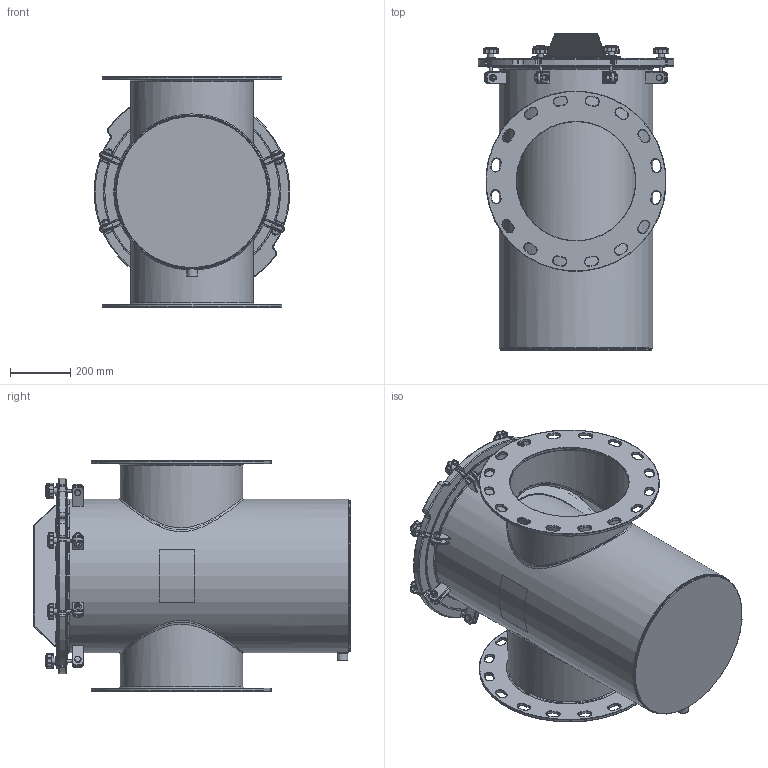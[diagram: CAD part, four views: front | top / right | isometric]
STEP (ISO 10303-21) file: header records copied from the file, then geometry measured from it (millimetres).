
FILE_DESCRIPTION(/* description */ ('20" STRAINER BODY'),/* implementation_level */ '2;1');
FILE_NAME(/* name */ 'X:\WIP\Ready for delivery - Do not Disturb -Updated with metric Flange\Workspace\SS Straight\150NBSTL16-M.stp',/* time_stamp */ '2016-09-29T20:02:48+06:00',/* author */ ('20093558'),/* organization */ (''),/* preprocessor_version */ 'ST-DEVELOPER v16.1',/* originating_system */ 'Autodesk Inventor 2016',/* authorisation */ '');
FILE_SCHEMA (('AUTOMOTIVE_DESIGN { 1 0 10303 214 3 1 1 }'));
Length unit declared in the file: inch
Products named in the file (34): NBSSBODY16_Welds; FOR NBSSBODY16; FOR 20 DIA STRAINER BODY; FOR 20 DIA STRAINER BODY_1; 20 Body; ConcentricPipe-16(_DQ) - M; 16(_DQ); For 20 Body; ASME B16.11 Half Coupling Threaded - Class 3000 3_4 x 3_4; 20 Body_1; NBSSBODY16; 150NBCVR22R2; 150NBGSK20R1; Perforated Basket 20in; Bride (Ring) 20in; Baffle 20in; Handle 20in; Bottom Strainer 20in; NBBSK16T316; BRACESTRCVR20_Welds; BRACE (BASE) FOR 20 BODY; BRACE (PROJ) FOR 20 BODY; Bumper; BRACESTRCVR20; Nut- 1_2  UNC; Bolt-1_2 x 1 1_2  UNC; EyeBolt; Washer; Knob M10; Securing Assembly with Brace; Securing Assembly without Brace; Label for 20 inch (Right); Label for 20 inch (Left); Guardian SS H&L Strainer (Inch)
Assembly tree (69 placements, depth 3):
  Guardian SS H&L Strainer (Inch)
    NBSSBODY16
      NBSSBODY16_Welds
      FOR NBSSBODY16
      FOR 20 DIA STRAINER BODY
      FOR 20 DIA STRAINER BODY_1
      20 Body  x4
      ConcentricPipe-16(_DQ) - M  x2
      16(_DQ)  x2
      For 20 Body
      ASME B16.11 Half Coupling Threaded - Class 3000 3_4 x 3_4
      20 Body_1  x16
    150NBCVR22R2
    150NBGSK20R1
    NBBSK16T316
      Perforated Basket 20in
      Bride (Ring) 20in
      Baffle 20in
      Handle 20in
      Bottom Strainer 20in
    BRACESTRCVR20
      BRACESTRCVR20_Welds
      BRACE (BASE) FOR 20 BODY
      BRACE (PROJ) FOR 20 BODY
      Bumper  x6
    Securing Assembly with Brace  x2
      Nut- 1_2  UNC
      Bolt-1_2 x 1 1_2  UNC
      EyeBolt
      Washer
      Knob M10
    Securing Assembly without Brace  x6
      Nut- 1_2  UNC
      Bolt-1_2 x 1 1_2  UNC
      EyeBolt
      Washer
      Knob M10
    Label for 20 inch (Right)
    Label for 20 inch (Left)
Bounding box: 645.99 x 1047.75 x 762 mm (x, y, z)
Volume: 24880066.5 mm3; surface area: 8499925.9 mm2
Topology: 111 solids, 111 shells, 2473 faces, 5513 edges, 3239 vertices
Faces by surface type: cylinder 887, plane 651, torus 488, cone 189, sphere 142, bspline 116
Full cylindrical faces by diameter (mm): 3.175 x11, 6.35 x1, 8.382 x8, 9.525 x16, 10.592 x8, 12.7 x8, 15.875 x16, 19 x16, 19.05 x8, 22.8 x1, 22.809 x1, 31.75 x8, 35.052 x1, 393.7 x2, 400.842 x4, 403.225 x2, 406.4 x7, 408.94 x1, 444.5 x1, 495.3 x2, 501.65 x2, 508 x2, 511.175 x1, 514.35 x1, 577.85 x1, 584.2 x1, 587.375 x1, 596.9 x2
Entity records: 37967 total; most frequent: CARTESIAN_POINT 12457, DIRECTION 5522, ORIENTED_EDGE 4646, EDGE_CURVE 2323, AXIS2_PLACEMENT_3D 2289, VERTEX_POINT 1438, EDGE_LOOP 1241, CIRCLE 1089
